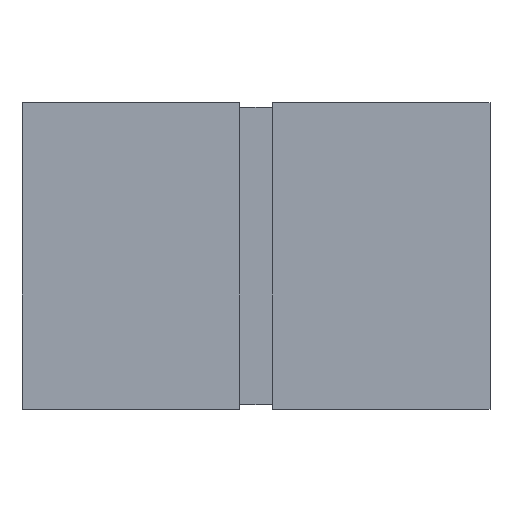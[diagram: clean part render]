
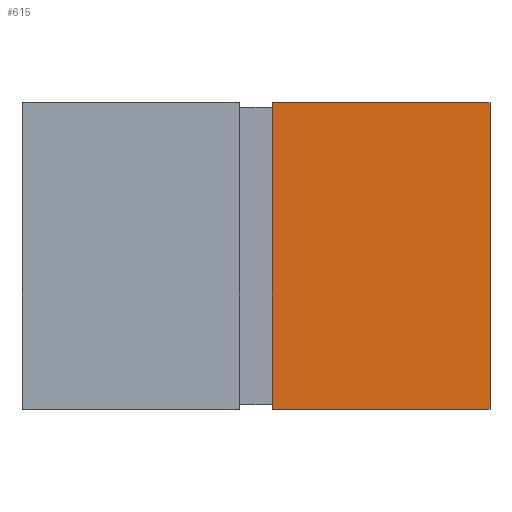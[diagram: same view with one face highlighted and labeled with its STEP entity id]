
A CAD part, top view. The second image highlights one B-rep face of the part: STEP entity #615.
In plain terms, the highlighted planar face has unit normal (0, 0, 1).
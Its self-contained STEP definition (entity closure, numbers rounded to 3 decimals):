
#391=CARTESIAN_POINT('',(3.683,-2.413,1.397));
#390=VERTEX_POINT('',#391);
#401=CARTESIAN_POINT('',(0.254,-2.413,1.397));
#400=VERTEX_POINT('',#401);
#399=EDGE_CURVE('',#400,#390,#404,.T.);
#404=LINE('',#401,#406);
#406=VECTOR('',#407,3.429);
#407=DIRECTION('',(1.0,0.0,0.0));
#440=CARTESIAN_POINT('',(3.683,2.413,1.397));
#439=VERTEX_POINT('',#440);
#448=EDGE_CURVE('',#390,#439,#453,.T.);
#453=LINE('',#391,#455);
#455=VECTOR('',#456,4.826);
#456=DIRECTION('',(0.0,1.0,0.0));
#489=CARTESIAN_POINT('',(0.254,2.413,1.397));
#488=VERTEX_POINT('',#489);
#497=EDGE_CURVE('',#439,#488,#502,.T.);
#502=LINE('',#440,#504);
#504=VECTOR('',#505,3.429);
#505=DIRECTION('',(-1.0,0.0,0.0));
#546=EDGE_CURVE('',#488,#400,#551,.T.);
#551=LINE('',#489,#553);
#553=VECTOR('',#554,4.826);
#554=DIRECTION('',(0.0,-1.0,0.0));
#615=ADVANCED_FACE('',(#621),#616,.T.);
#616=PLANE('',#617);
#617=AXIS2_PLACEMENT_3D('',#618,#619,#620);
#618=CARTESIAN_POINT('',(0.254,-2.413,1.397));
#619=DIRECTION('',(0.0,0.0,1.0));
#620=DIRECTION('',(0.,1.,0.));
#621=FACE_OUTER_BOUND('',#622,.T.);
#622=EDGE_LOOP('',(#623,#633,#643,#653));
#623=ORIENTED_EDGE('',*,*,#399,.T.);
#633=ORIENTED_EDGE('',*,*,#448,.T.);
#643=ORIENTED_EDGE('',*,*,#497,.T.);
#653=ORIENTED_EDGE('',*,*,#546,.T.);
